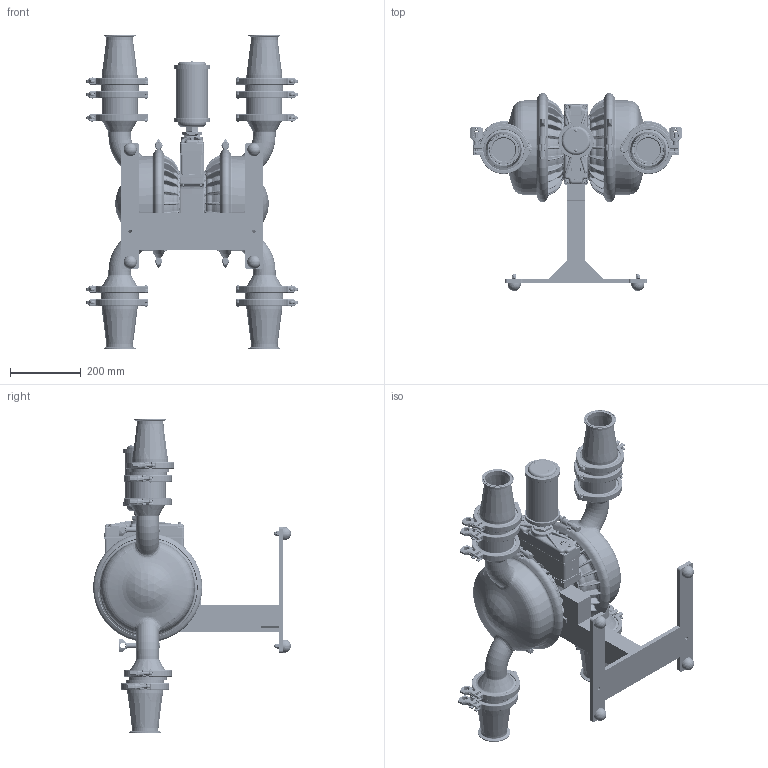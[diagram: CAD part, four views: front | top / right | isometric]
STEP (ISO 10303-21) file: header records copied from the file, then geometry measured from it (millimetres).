
FILE_DESCRIPTION (( 'STEP AP203' ), '1' );
FILE_NAME ('ps15_ss_saniflo_hs_flap_horizontal.STEP', '2022-07-01T11:53:13', ( '' ), ( '' ), 'SwSTEP 2.0', 'SolidWorks 2019', '' );
FILE_SCHEMA (( 'CONFIG_CONTROL_DESIGN' ));
Products named in the file (1): ps15_ss_saniflo_hs_flap_horizontal
Bounding box: 597.97 x 558.36 x 886.21 mm (x, y, z)
Volume: 27723917.7 mm3; surface area: 2166021 mm2
Topology: 1 solids, 1 shells, 10991 faces, 27581 edges, 16727 vertices
Faces by surface type: plane 3992, bspline 2395, cylinder 2188, torus 1426, cone 598, sphere 392
Entity records: 646481 total; most frequent: CARTESIAN_POINT 400870, ORIENTED_EDGE 54722, DIRECTION 47311, EDGE_CURVE 27361, AXIS2_PLACEMENT_3D 17533, VERTEX_POINT 16659, LINE 12245, VECTOR 12245
